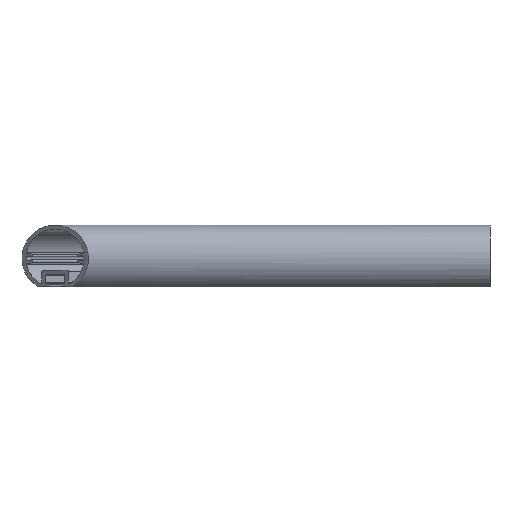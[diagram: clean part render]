
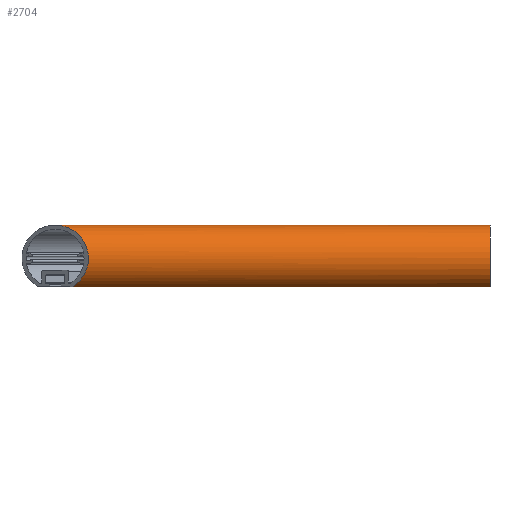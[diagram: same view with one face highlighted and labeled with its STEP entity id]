
A CAD part, top view. The second image highlights one B-rep face of the part: STEP entity #2704.
In plain terms, the highlighted cylindrical face has radius 25 mm (diameter 50 mm), a partial arc.
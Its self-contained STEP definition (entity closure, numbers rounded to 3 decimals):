
#1296=CIRCLE('',#2572,25.);
#1326=ELLIPSE('',#2571,35.355,25.);
#1356=ORIENTED_EDGE('',*,*,#1824,.F.);
#1357=ORIENTED_EDGE('',*,*,#1825,.T.);
#1358=ORIENTED_EDGE('',*,*,#1826,.T.);
#1359=ORIENTED_EDGE('',*,*,#1827,.T.);
#1608=VECTOR('',#2044,1.);
#1609=VECTOR('',#2047,1.);
#1674=LINE('',#2319,#1608);
#1675=LINE('',#2323,#1609);
#1740=VERTEX_POINT('',#2317);
#1741=VERTEX_POINT('',#2318);
#1742=VERTEX_POINT('',#2320);
#1743=VERTEX_POINT('',#2322);
#1824=EDGE_CURVE('',#1740,#1741,#1674,.T.);
#1825=EDGE_CURVE('',#1740,#1742,#1326,.T.);
#1826=EDGE_CURVE('',#1742,#1743,#1675,.T.);
#1827=EDGE_CURVE('',#1743,#1741,#1296,.T.);
#1950=EDGE_LOOP('',(#1356,#1357,#1358,#1359));
#1996=FACE_BOUND('',#1950,.T.);
#2042=DIRECTION('',(1.,0.,0.));
#2043=DIRECTION('',(0.,-0.86,-0.51));
#2044=DIRECTION('',(340.258,0.,0.));
#2045=DIRECTION('',(0.707,0.,-0.707));
#2046=DIRECTION('',(-0.707,0.,-0.707));
#2047=DIRECTION('',(314.743,0.,0.));
#2048=DIRECTION('',(-1.,0.,0.));
#2049=DIRECTION('',(0.,-21.5,-12.757));
#2316=CARTESIAN_POINT('',(0.,-25.,25.));
#2317=CARTESIAN_POINT('',(2759.742,-46.5,12.243));
#2318=CARTESIAN_POINT('',(3100.,-46.5,12.243));
#2319=CARTESIAN_POINT('',(2759.742,-46.5,12.243));
#2320=CARTESIAN_POINT('',(2785.257,-46.5,37.757));
#2321=CARTESIAN_POINT('',(2772.5,-25.,25.));
#2322=CARTESIAN_POINT('',(3100.,-46.5,37.757));
#2323=CARTESIAN_POINT('',(2785.257,-46.5,37.757));
#2324=CARTESIAN_POINT('',(3100.,-25.,25.));
#2570=AXIS2_PLACEMENT_3D('',#2316,#2042,#2043);
#2571=AXIS2_PLACEMENT_3D('',#2321,#2045,#2046);
#2572=AXIS2_PLACEMENT_3D('',#2324,#2048,#2049);
#2674=CYLINDRICAL_SURFACE('',#2570,25.);
#2704=ADVANCED_FACE('',(#1996),#2674,.T.);
